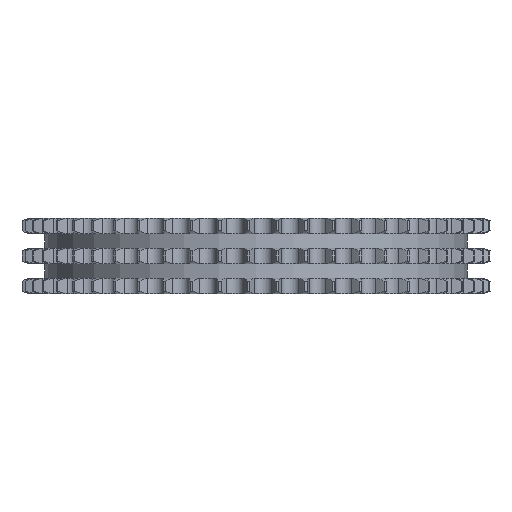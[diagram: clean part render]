
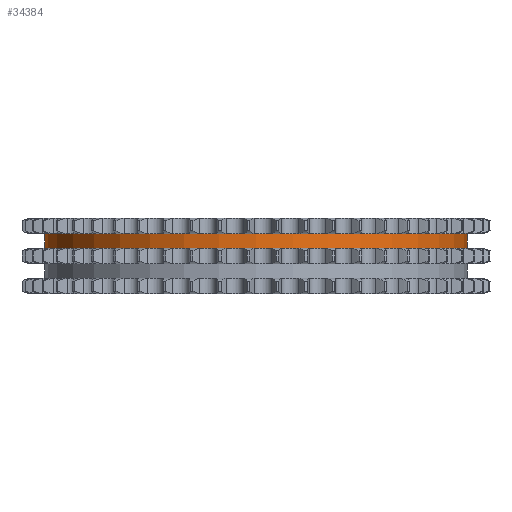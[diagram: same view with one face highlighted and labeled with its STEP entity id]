
A CAD part, left-side view. The second image highlights one B-rep face of the part: STEP entity #34384.
In plain terms, the highlighted cylindrical face has radius 71.362 mm (diameter 142.725 mm), a partial arc.
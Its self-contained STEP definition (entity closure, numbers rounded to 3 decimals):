
#6202=DIRECTION('',(0.,0.,-1.));
#6203=VECTOR('',#6202,4.85);
#6204=CARTESIAN_POINT('',(0.,71.362,7.5));
#6205=LINE('',#6204,#6203);
#6209=CARTESIAN_POINT('',(0.,0.,7.5));
#6210=DIRECTION('',(0.,0.,1.));
#6211=DIRECTION('',(0.,1.,0.));
#6212=AXIS2_PLACEMENT_3D('',#6209,#6210,#6211);
#6217=DIRECTION('',(0.,0.,-1.));
#6218=VECTOR('',#6217,4.85);
#6219=CARTESIAN_POINT('',(0.,-71.362,7.5));
#6220=LINE('',#6219,#6218);
#6224=CARTESIAN_POINT('',(0.,0.,2.65));
#6225=DIRECTION('',(0.,0.,1.));
#6226=DIRECTION('',(0.,1.,0.));
#6227=AXIS2_PLACEMENT_3D('',#6224,#6225,#6226);
#27396=CARTESIAN_POINT('',(0.,71.362,7.5));
#27397=CARTESIAN_POINT('',(0.,71.362,2.65));
#27398=VERTEX_POINT('',#27396);
#27399=VERTEX_POINT('',#27397);
#27400=CARTESIAN_POINT('',(0.,-71.362,7.5));
#27401=CARTESIAN_POINT('',(0.,-71.362,2.65));
#27402=VERTEX_POINT('',#27400);
#27403=VERTEX_POINT('',#27401);
#34372=CARTESIAN_POINT('',(0.,0.,8.25));
#34373=DIRECTION('',(0.,0.,-1.));
#34374=DIRECTION('',(0.,-1.,0.));
#34375=AXIS2_PLACEMENT_3D('',#34372,#34373,#34374);
#34376=CYLINDRICAL_SURFACE('',#34375,71.362);
#34377=ORIENTED_EDGE('',*,*,#34362,.F.);
#34378=ORIENTED_EDGE('',*,*,#34352,.T.);
#34379=ORIENTED_EDGE('',*,*,#34366,.T.);
#34381=ORIENTED_EDGE('',*,*,#34380,.F.);
#34382=EDGE_LOOP('',(#34377,#34378,#34379,#34381));
#34383=FACE_OUTER_BOUND('',#34382,.F.);
#34384=ADVANCED_FACE('',(#34383),#34376,.T.);
#6213=CIRCLE('',#6212,71.362);
#6228=CIRCLE('',#6227,71.362);
#34352=EDGE_CURVE('',#27398,#27402,#6213,.T.);
#34362=EDGE_CURVE('',#27398,#27399,#6205,.T.);
#34366=EDGE_CURVE('',#27402,#27403,#6220,.T.);
#34380=EDGE_CURVE('',#27399,#27403,#6228,.T.);
